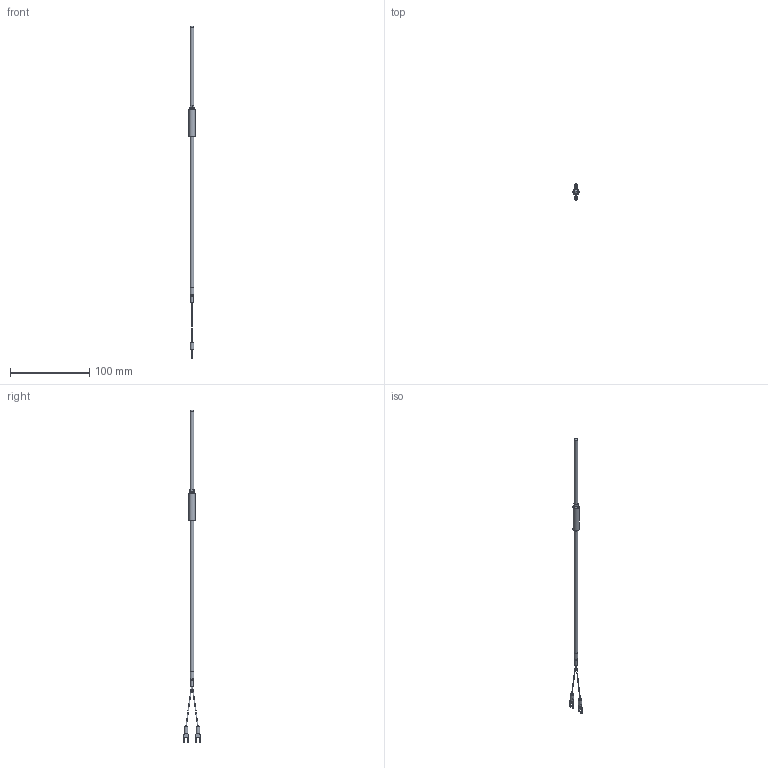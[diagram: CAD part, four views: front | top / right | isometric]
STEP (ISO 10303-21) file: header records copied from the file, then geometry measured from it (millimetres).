
FILE_DESCRIPTION (( 'STEP AP203' ), '1' );
FILE_NAME ('YIT101-3(0).STEP', '2024-11-21T03:57:43', ( '' ), ( '' ), 'SwSTEP 2.0', 'SolidWorks 2021', '' );
FILE_SCHEMA (( 'CONFIG_CONTROL_DESIGN' ));
Length unit declared in the file: millimetre
Products named in the file (1): YIT101-3(0)
Bounding box: 8 x 20.85 x 420 mm (x, y, z)
Volume: 8022.3 mm3; surface area: 6850.2 mm2
Topology: 9 solids, 9 shells, 81 faces, 176 edges, 114 vertices
Faces by surface type: plane 47, cylinder 22, bspline 8, cone 3, torus 1
Full cylindrical faces by diameter (mm): 2.2 x1, 3.16 x1, 4.5 x2, 4.8 x2, 5 x1, 8 x1
Entity records: 2361 total; most frequent: CARTESIAN_POINT 600, DIRECTION 344, ORIENTED_EDGE 318, EDGE_CURVE 159, AXIS2_PLACEMENT_3D 123, VERTEX_POINT 111, LINE 98, VECTOR 98
